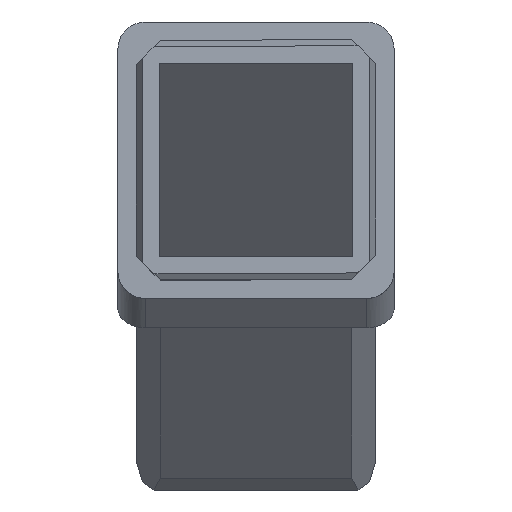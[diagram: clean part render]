
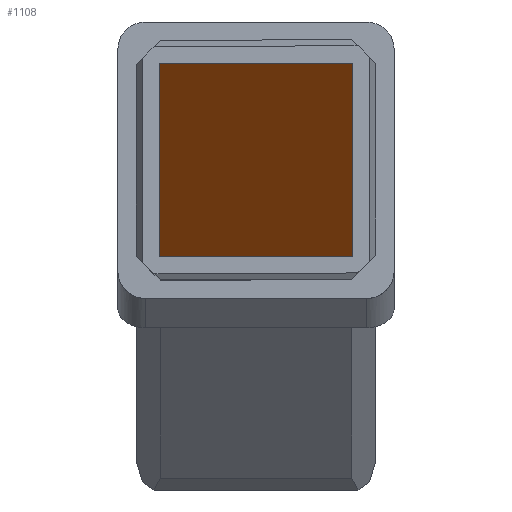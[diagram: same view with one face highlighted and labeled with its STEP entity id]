
A CAD part, top view. The second image highlights one B-rep face of the part: STEP entity #1108.
In plain terms, the highlighted planar face has unit normal (0, -0.707, 0.707).
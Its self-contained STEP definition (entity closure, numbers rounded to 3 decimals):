
#49 = VERTEX_POINT ( 'NONE', #569 ) ;
#96 = CARTESIAN_POINT ( 'NONE',  ( -15., 10.5, -42.569 ) ) ;
#188 = CARTESIAN_POINT ( 'NONE',  ( 10.5, -19.601, -72.67 ) ) ;
#217 = CARTESIAN_POINT ( 'NONE',  ( -15., -19.601, -72.67 ) ) ;
#221 = CARTESIAN_POINT ( 'NONE',  ( -15., 11.818, -41.251 ) ) ;
#241 = VERTEX_POINT ( 'NONE', #670 ) ;
#253 = EDGE_CURVE ( 'NONE', #49, #618, #1591, .T. ) ;
#325 = EDGE_LOOP ( 'NONE', ( #1505, #721, #1203, #1423 ) ) ;
#348 = LINE ( 'NONE', #1331, #1077 ) ;
#454 = DIRECTION ( 'NONE',  ( 1., 0., 0. ) ) ;
#569 = CARTESIAN_POINT ( 'NONE',  ( -10.5, -19.601, -72.67 ) ) ;
#590 = VECTOR ( 'NONE', #1183, 1000. ) ;
#591 = DIRECTION ( 'NONE',  ( 0., -0.707, -0.707 ) ) ;
#597 = LINE ( 'NONE', #694, #590 ) ;
#618 = VERTEX_POINT ( 'NONE', #188 ) ;
#648 = CARTESIAN_POINT ( 'NONE',  ( 10.5, 10.5, -42.569 ) ) ;
#658 = EDGE_CURVE ( 'NONE', #1390, #618, #348, .T. ) ;
#670 = CARTESIAN_POINT ( 'NONE',  ( -10.5, 10.5, -42.569 ) ) ;
#694 = CARTESIAN_POINT ( 'NONE',  ( -10.5, 11.818, -41.251 ) ) ;
#703 = DIRECTION ( 'NONE',  ( 0., -0.707, -0.707 ) ) ;
#721 = ORIENTED_EDGE ( 'NONE', *, *, #658, .F. ) ;
#790 = VECTOR ( 'NONE', #1573, 1000. ) ;
#930 = PLANE ( 'NONE',  #1097 ) ;
#1055 = VECTOR ( 'NONE', #454, 1000. ) ;
#1057 = FACE_OUTER_BOUND ( 'NONE', #325, .T. ) ;
#1077 = VECTOR ( 'NONE', #591, 1000. ) ;
#1097 = AXIS2_PLACEMENT_3D ( 'NONE', #221, #1209, #703 ) ;
#1108 = ADVANCED_FACE ( 'NONE', ( #1057 ), #930, .T. ) ;
#1130 = EDGE_CURVE ( 'NONE', #241, #49, #597, .T. ) ;
#1162 = EDGE_CURVE ( 'NONE', #1390, #241, #1215, .T. ) ;
#1183 = DIRECTION ( 'NONE',  ( 0., -0.707, -0.707 ) ) ;
#1203 = ORIENTED_EDGE ( 'NONE', *, *, #1162, .T. ) ;
#1209 = DIRECTION ( 'NONE',  ( 0., -0.707, 0.707 ) ) ;
#1215 = LINE ( 'NONE', #96, #790 ) ;
#1331 = CARTESIAN_POINT ( 'NONE',  ( 10.5, -6.289, -59.358 ) ) ;
#1390 = VERTEX_POINT ( 'NONE', #648 ) ;
#1423 = ORIENTED_EDGE ( 'NONE', *, *, #1130, .T. ) ;
#1505 = ORIENTED_EDGE ( 'NONE', *, *, #253, .T. ) ;
#1573 = DIRECTION ( 'NONE',  ( -1., 0., 0. ) ) ;
#1591 = LINE ( 'NONE', #217, #1055 ) ;
